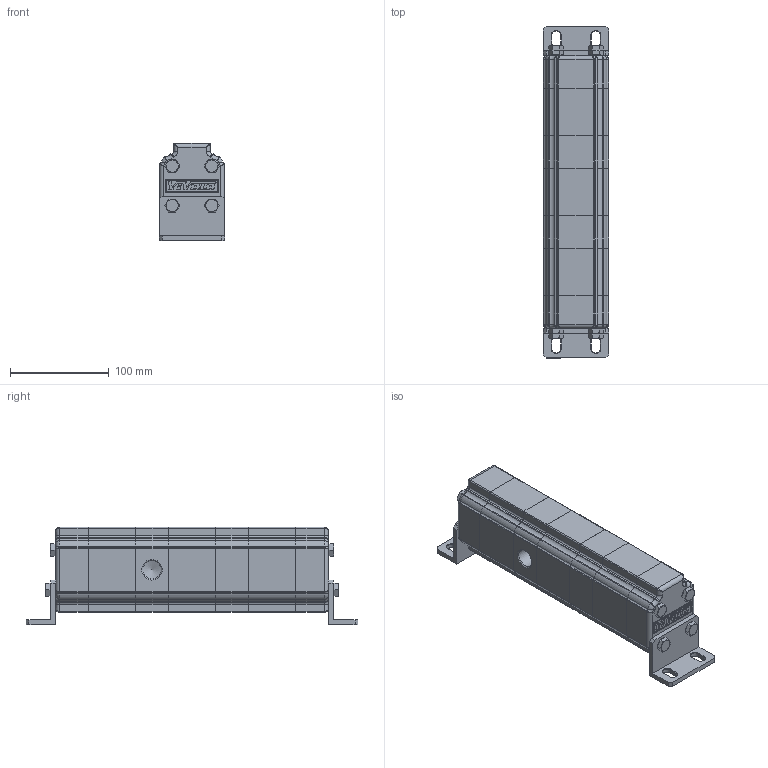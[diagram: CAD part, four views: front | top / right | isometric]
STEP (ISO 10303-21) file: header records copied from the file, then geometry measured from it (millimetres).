
FILE_DESCRIPTION(/* description */ ('Unknown'),/* implementation_level */ '2;1');
FILE_NAME(/* name */ '9RD0321',/* time_stamp */ '2020-04-14T13:05:59+02:00',/* author */ ('Unknown'),/* organization */ ('Unknown'),/* preprocessor_version */ 'ST-DEVELOPER v16.7',/* originating_system */ 'DEX',/* authorisation */ $);
FILE_SCHEMA (('AUTOMOTIVE_DESIGN {1 0 10303 214 3 1 1}'));
Length unit declared in the file: millimetre
Products named in the file (1): RV-1D
Bounding box: 66 x 336 x 98.5 mm (x, y, z)
Volume: 1374817.1 mm3; surface area: 106940.5 mm2
Topology: 1 solids, 1 shells, 820 faces, 2203 edges, 1395 vertices
Faces by surface type: plane 348, cylinder 344, bspline 64, cone 32, torus 32
Full cylindrical faces by diameter (mm): 12 x8, 14.95 x6, 18.631 x2
Entity records: 32959 total; most frequent: CARTESIAN_POINT 6817, DIRECTION 4334, ORIENTED_EDGE 4232, EDGE_CURVE 2116, AXIS2_PLACEMENT_3D 1557, VERTEX_POINT 1376, LINE 1220, VECTOR 1220
